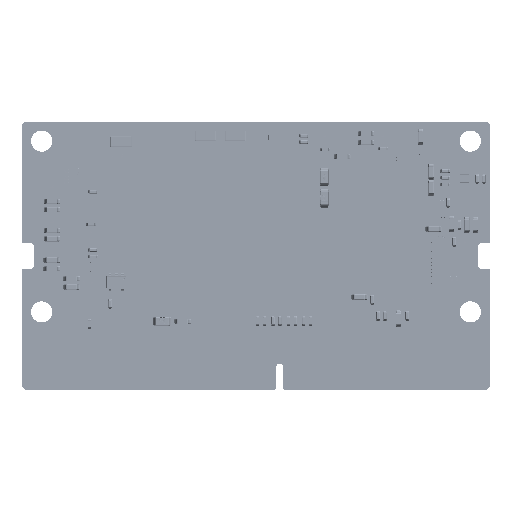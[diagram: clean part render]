
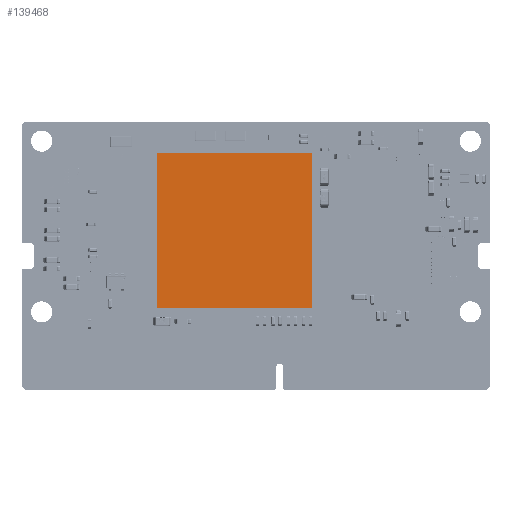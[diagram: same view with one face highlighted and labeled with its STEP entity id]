
A CAD part, top view. The second image highlights one B-rep face of the part: STEP entity #139468.
In plain terms, the highlighted planar face has unit normal (0, 0, 1).
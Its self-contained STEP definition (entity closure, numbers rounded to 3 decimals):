
#139353=DIRECTION('',(1.,0.,0.));
#139354=VECTOR('',#139353,23.);
#139355=CARTESIAN_POINT('',(-11.5,11.5,2.6));
#139356=LINE('',#139355,#139354);
#139367=DIRECTION('',(0.,1.,0.));
#139368=VECTOR('',#139367,23.);
#139369=CARTESIAN_POINT('',(-11.5,-11.5,2.6));
#139370=LINE('',#139369,#139368);
#139395=DIRECTION('',(-1.,0.,0.));
#139396=VECTOR('',#139395,23.);
#139397=CARTESIAN_POINT('',(11.5,-11.5,2.6));
#139398=LINE('',#139397,#139396);
#139416=DIRECTION('',(0.,-1.,0.));
#139417=VECTOR('',#139416,23.);
#139418=CARTESIAN_POINT('',(11.5,11.5,2.6));
#139419=LINE('',#139418,#139417);
#139437=CARTESIAN_POINT('',(-11.5,11.5,2.6));
#139438=CARTESIAN_POINT('',(11.5,11.5,2.6));
#139439=VERTEX_POINT('',#139437);
#139440=VERTEX_POINT('',#139438);
#139441=CARTESIAN_POINT('',(11.5,-11.5,2.6));
#139442=VERTEX_POINT('',#139441);
#139443=CARTESIAN_POINT('',(-11.5,-11.5,2.6));
#139444=VERTEX_POINT('',#139443);
#139453=CARTESIAN_POINT('',(11.5,11.5,2.6));
#139454=DIRECTION('',(0.,0.,1.));
#139455=DIRECTION('',(1.,0.,0.));
#139456=AXIS2_PLACEMENT_3D('',#139453,#139454,#139455);
#139457=PLANE('',#139456);
#139459=ORIENTED_EDGE('',*,*,#139458,.T.);
#139461=ORIENTED_EDGE('',*,*,#139460,.T.);
#139463=ORIENTED_EDGE('',*,*,#139462,.T.);
#139465=ORIENTED_EDGE('',*,*,#139464,.T.);
#139466=EDGE_LOOP('',(#139459,#139461,#139463,#139465));
#139467=FACE_OUTER_BOUND('',#139466,.F.);
#139458=EDGE_CURVE('',#139439,#139440,#139356,.T.);
#139460=EDGE_CURVE('',#139440,#139442,#139419,.T.);
#139462=EDGE_CURVE('',#139442,#139444,#139398,.T.);
#139464=EDGE_CURVE('',#139444,#139439,#139370,.T.);
#139468=ADVANCED_FACE('',(#139467),#139457,.T.);
